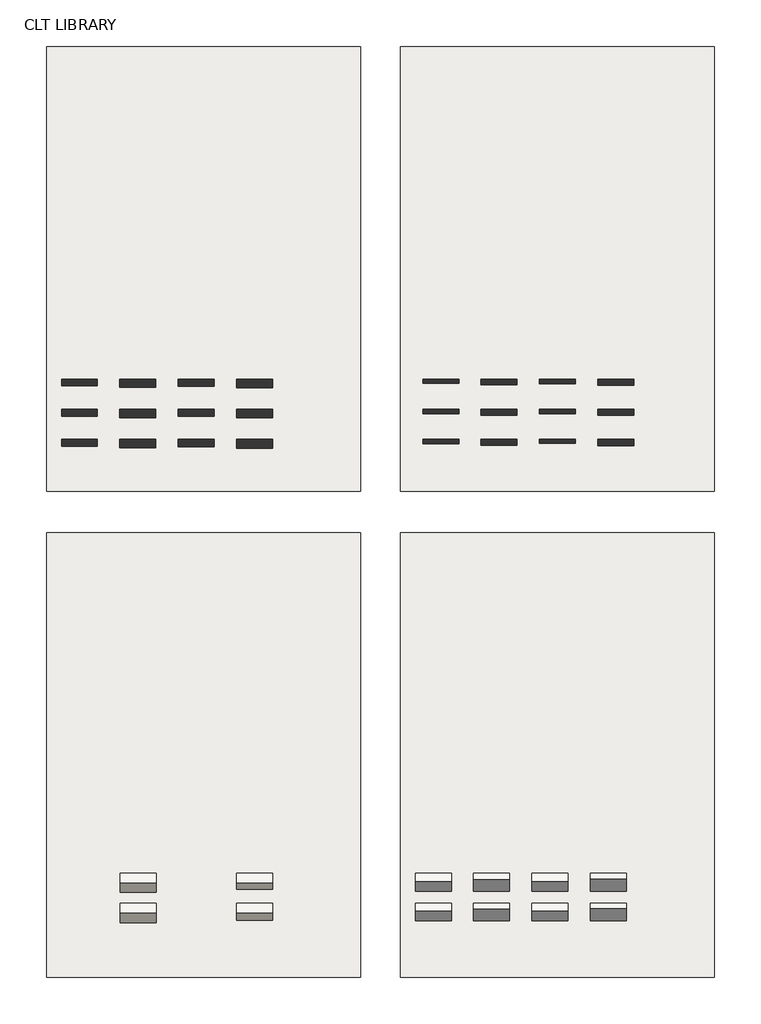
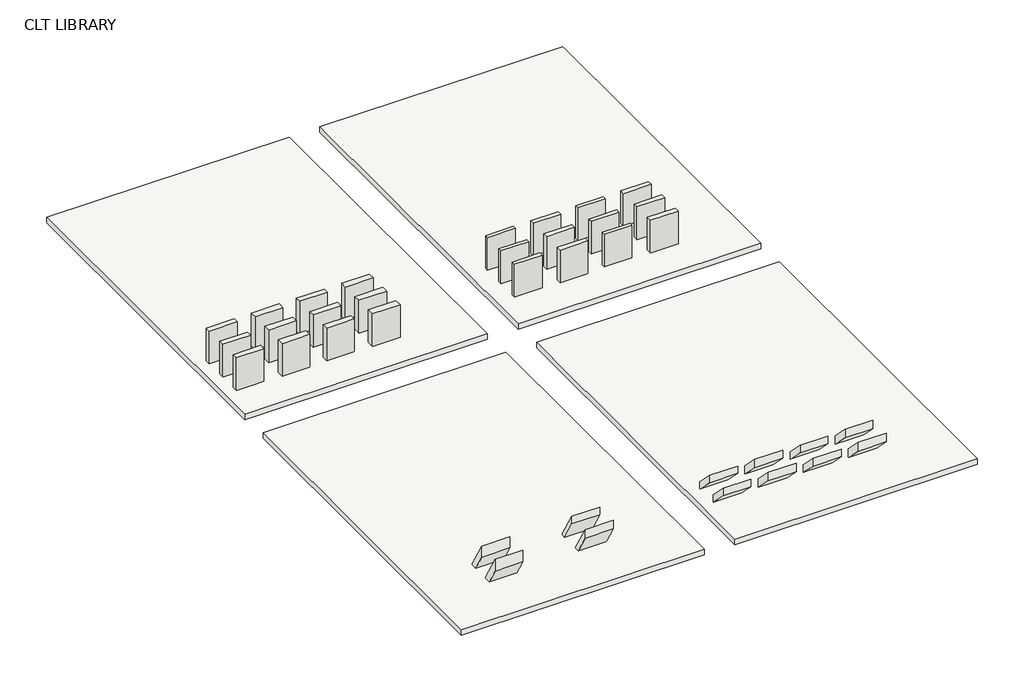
# One storey: 24 walls, 8 roofs, 8 slabs.
"""IFC4 building model written with IfcOpenShell, lengths in millimetres."""

from ifc_helpers import new_model, si_unit, frame, origin, origin_with_axes, place, context, project, spatial, polyline, outline, extrude, element, save

model = new_model("IFC4")

# Units and contexts
model_context = context("Model", 3, world=origin())
ifc_project = project(units=[si_unit("LENGTHUNIT", "METRE", prefix="MILLI")], contexts=[model_context])

# Site, building, storey
site = spatial("IfcSite", under=ifc_project)
building = spatial("IfcBuilding", under=site)
storey = spatial("IfcBuildingStorey", under=building, Name="CLT LIBRARY", Elevation=0.0)

# Roofs
placement = place(None, origin())
element("IfcRoof", 1, ObjectType="(CLT) R_TIL 160/551", at=placement, inside=storey, context=model_context, shape_type="SweptSolid", body=[
    extrude(outline(polyline([(5474.2905602, 2279.2316729), (6974.2905602, 779.2316729), (6974.2905602, 0.0), (5474.2905602, 1500.0), (5474.2905602, 2279.2316729)])), frame((36360.015, 0.0, 0.0), z_axis=(1.0, 0.0, 0.0), x_axis=(0.0, 1.0, 0.0)), (0.0, 0.0, 1.0), 2400.0),
])
element("IfcRoof", 2, ObjectType="(CLT) R_TIL 180/571", at=placement, inside=storey, context=model_context, shape_type="SweptSolid", body=[
    extrude(outline(polyline([(3474.2905602, 2307.5159441), (4974.2905602, 807.5159441), (4974.2905602, 0.0), (3474.2905602, 1500.0), (3474.2905602, 2307.5159441)])), frame((36360.015, 0.0, 0.0), z_axis=(1.0, 0.0, 0.0), x_axis=(0.0, 1.0, 0.0)), (0.0, 0.0, 1.0), 2400.0),
])
element("IfcRoof", 3, ObjectType="(CLT) R_MET 160/471", at=placement, inside=storey, context=model_context, shape_type="SweptSolid", body=[
    extrude(outline(polyline([(5474.2905602, 2166.0945879), (6974.2905602, 666.0945879), (6974.2905602, 0.0), (5474.2905602, 1500.0), (5474.2905602, 2166.0945879)])), frame((32460.015, 0.0, 0.0), z_axis=(1.0, 0.0, 0.0), x_axis=(0.0, 1.0, 0.0)), (0.0, 0.0, 1.0), 2400.0),
])
element("IfcRoof", 4, ObjectType="(CLT) R_MET 180/491", at=placement, inside=storey, context=model_context, shape_type="SweptSolid", body=[
    extrude(outline(polyline([(3474.2905602, 2194.3788591), (4974.2905602, 694.3788591), (4974.2905602, 0.0), (3474.2905602, 1500.0), (3474.2905602, 2194.3788591)])), frame((32460.015, 0.0, 0.0), z_axis=(1.0, 0.0, 0.0), x_axis=(0.0, 1.0, 0.0)), (0.0, 0.0, 1.0), 2400.0),
])
element("IfcRoof", 5, ObjectType="(CLT) R_TIL 140/531", at=placement, inside=storey, context=model_context, shape_type="SweptSolid", body=[
    extrude(outline(polyline([(5474.2905602, 2250.9474016), (6974.2905602, 750.9474016), (6974.2905602, 0.0), (5474.2905602, 1500.0), (5474.2905602, 2250.9474016)])), frame((28560.015, 0.0, 0.0), z_axis=(1.0, 0.0, 0.0), x_axis=(0.0, 1.0, 0.0)), (0.0, 0.0, 1.0), 2400.0),
])
element("IfcRoof", 6, ObjectType="(CLT) R_TIL 160/551", at=placement, inside=storey, context=model_context, shape_type="SweptSolid", body=[
    extrude(outline(polyline([(3474.2905602, 2279.2316729), (4974.2905602, 779.2316729), (4974.2905602, 0.0), (3474.2905602, 1500.0), (3474.2905602, 2279.2316729)])), frame((28560.015, 0.0, 0.0), z_axis=(1.0, 0.0, 0.0), x_axis=(0.0, 1.0, 0.0)), (0.0, 0.0, 1.0), 2400.0),
])
element("IfcRoof", 7, ObjectType="(CLT) R_MET 160/471", at=placement, inside=storey, context=model_context, shape_type="SweptSolid", body=[
    extrude(outline(polyline([(5474.2905602, 2166.0945879), (6974.2905602, 666.0945879), (6974.2905602, 0.0), (5474.2905602, 1500.0), (5474.2905602, 2166.0945879)])), frame((24660.015, 0.0, 0.0), z_axis=(1.0, 0.0, 0.0), x_axis=(0.0, 1.0, 0.0)), (0.0, 0.0, 1.0), 2400.0),
])
element("IfcRoof", 8, ObjectType="(CLT) R_MET 180/491", at=placement, inside=storey, context=model_context, shape_type="SweptSolid", body=[
    extrude(outline(polyline([(3474.2905602, 2194.3788591), (4974.2905602, 694.3788591), (4974.2905602, 0.0), (3474.2905602, 1500.0), (3474.2905602, 2194.3788591)])), frame((24660.015, 0.0, 0.0), z_axis=(1.0, 0.0, 0.0), x_axis=(0.0, 1.0, 0.0)), (0.0, 0.0, 1.0), 2400.0),
])

# Slabs
element("IfcSlab", 9, ObjectType="(CLT) FS_HSS 220/350", at=placement, inside=storey, context=model_context, shape_type="SweptSolid", body=[
    extrude(outline(polyline([(6974.2905602, -700.0), (5474.2905602, 1898.0762114), (5474.2905602, 2598.0762114), (6974.2905602, 0.0), (6974.2905602, -700.0)])), frame((12724.7371999, 0.0, 0.0), z_axis=(1.0, 0.0, 0.0), x_axis=(0.0, 1.0, 0.0)), (0.0, 0.0, 1.0), 2400.0),
])
element("IfcSlab", 10, ObjectType="(CLT) FS_HSS 260/390", at=placement, inside=storey, context=model_context, shape_type="SweptSolid", body=[
    extrude(outline(polyline([(4974.2905602, -780.0), (3474.2905602, 1818.0762114), (3474.2905602, 2598.0762114), (4974.2905602, 0.0), (4974.2905602, -780.0)])), frame((12724.7371999, 0.0, 0.0), z_axis=(1.0, 0.0, 0.0), x_axis=(0.0, 1.0, 0.0)), (0.0, 0.0, 1.0), 2400.0),
])
element("IfcSlab", 11, ObjectType="(CLT) FS_LSS 200/498", at=placement, inside=storey, context=model_context, shape_type="SweptSolid", body=[
    extrude(outline(polyline([(6974.2905602, -996.0), (5474.2905602, 1602.0762114), (5474.2905602, 2598.0762114), (6974.2905602, 0.0), (6974.2905602, -996.0)])), frame((4924.7371999, 0.0, 0.0), z_axis=(1.0, 0.0, 0.0), x_axis=(0.0, 1.0, 0.0)), (0.0, 0.0, 1.0), 2400.0),
])
element("IfcSlab", 12, ObjectType="(CLT) FS_LSS 240/498", at=placement, inside=storey, context=model_context, shape_type="SweptSolid", body=[
    extrude(outline(polyline([(4974.2905602, -1076.0), (3474.2905602, 1522.0762114), (3474.2905602, 2598.0762114), (4974.2905602, 0.0), (4974.2905602, -1076.0)])), frame((4924.7371999, 0.0, 0.0), z_axis=(1.0, 0.0, 0.0), x_axis=(0.0, 1.0, 0.0)), (0.0, 0.0, 1.0), 2400.0),
])
element("IfcSlab", 13, ObjectType="(CLT) FS_LSS 200/498", at=placement, inside=storey, context=model_context, shape_type="SweptSolid", body=[
    extrude(outline(polyline([(21000.0144444, 62200.0166667), (21000.0144444, 32500.0083333), (0.0, 32500.0083333), (0.0, 62200.0166667), (21000.0144444, 62200.0166667)])), frame((0.0, 0.0, -498.0), z_axis=(0.0, 0.0, 1.0), x_axis=(1.0, 0.0, 0.0)), (0.0, 0.0, 1.0), 498.0),
])
element("IfcSlab", 14, ObjectType="(CLT) FS_LSS 200/498", at=placement, inside=storey, context=model_context, shape_type="SweptSolid", body=[
    extrude(outline(polyline([(44655.2922445, 62200.0166667), (44655.2922445, 32500.0083333), (23655.2778001, 32500.0083333), (23655.2778001, 62200.0166667), (44655.2922445, 62200.0166667)])), frame((0.0, 0.0, -498.0), z_axis=(0.0, 0.0, 1.0), x_axis=(1.0, 0.0, 0.0)), (0.0, 0.0, 1.0), 498.0),
])
element("IfcSlab", 15, ObjectType="(CLT) FS_LSS 200/498", at=placement, inside=storey, context=model_context, shape_type="SweptSolid", body=[
    extrude(outline(polyline([(44655.2922445, 29700.0083333), (44655.2922445, 0.0), (23655.2778001, 0.0), (23655.2778001, 29700.0083333), (44655.2922445, 29700.0083333)])), frame((0.0, 0.0, -498.0), z_axis=(0.0, 0.0, 1.0), x_axis=(1.0, 0.0, 0.0)), (0.0, 0.0, 1.0), 498.0),
])
element("IfcSlab", 16, ObjectType="(CLT) FS_LSS 200/498", at=placement, inside=storey, context=model_context, shape_type="SweptSolid", body=[
    extrude(outline(polyline([(21000.0144444, 29700.0083333), (21000.0144444, 0.0), (0.0, 0.0), (0.0, 29700.0083333), (21000.0144444, 29700.0083333)])), frame((0.0, 0.0, -498.0), z_axis=(0.0, 0.0, 1.0), x_axis=(1.0, 0.0, 0.0)), (0.0, 0.0, 1.0), 498.0),
])

# Walls
element("IfcWall", 17, ObjectType="(CLT) XW_BRI 160/566", at=placement, inside=storey, context=model_context, shape_type="SweptSolid", body=[
    extrude(outline(polyline([(15100.015, 39408.2905602), (12700.015, 39408.2905602), (12700.015, 39974.2905602), (15100.015, 39974.2905602), (15100.015, 39408.2905602)])), origin_with_axes(), (0.0, 0.0, 1.0), 3000.0),
])
element("IfcWall", 18, ObjectType="(CLT) XW_BRI 180/586", at=placement, inside=storey, context=model_context, shape_type="SweptSolid", body=[
    extrude(outline(polyline([(15100.015, 37388.2905602), (12700.015, 37388.2905602), (12700.015, 37974.2905602), (15100.015, 37974.2905602), (15100.015, 37388.2905602)])), origin_with_axes(), (0.0, 0.0, 1.0), 3000.0),
])
element("IfcWall", 19, ObjectType="(CLT) XW_BRI 200/606", at=placement, inside=storey, context=model_context, shape_type="SweptSolid", body=[
    extrude(outline(polyline([(15100.015, 35368.2905602), (12700.015, 35368.2905602), (12700.015, 35974.2905602), (15100.015, 35974.2905602), (15100.015, 35368.2905602)])), origin_with_axes(), (0.0, 0.0, 1.0), 3000.0),
])
element("IfcWall", 20, ObjectType="(CLT) XW_PAN 160/462", at=placement, inside=storey, context=model_context, shape_type="SweptSolid", body=[
    extrude(outline(polyline([(11200.015, 39512.2905602), (8800.015, 39512.2905602), (8800.015, 39974.2905602), (11200.015, 39974.2905602), (11200.015, 39512.2905602)])), origin_with_axes(), (0.0, 0.0, 1.0), 3000.0),
])
element("IfcWall", 21, ObjectType="(CLT) XW_PAN 180/482", at=placement, inside=storey, context=model_context, shape_type="SweptSolid", body=[
    extrude(outline(polyline([(11200.015, 37492.2905602), (8800.015, 37492.2905602), (8800.015, 37974.2905602), (11200.015, 37974.2905602), (11200.015, 37492.2905602)])), origin_with_axes(), (0.0, 0.0, 1.0), 3000.0),
])
element("IfcWall", 22, ObjectType="(CLT) XW_PAN 200/502", at=placement, inside=storey, context=model_context, shape_type="SweptSolid", body=[
    extrude(outline(polyline([(11200.015, 35472.2905602), (8800.015, 35472.2905602), (8800.015, 35974.2905602), (11200.015, 35974.2905602), (11200.015, 35472.2905602)])), origin_with_axes(), (0.0, 0.0, 1.0), 3000.0),
])
element("IfcWall", 23, ObjectType="(CLT) XW_BRI 140/546", at=placement, inside=storey, context=model_context, shape_type="SweptSolid", body=[
    extrude(outline(polyline([(7300.015, 39428.2905602), (4900.015, 39428.2905602), (4900.015, 39974.2905602), (7300.015, 39974.2905602), (7300.015, 39428.2905602)])), origin_with_axes(), (0.0, 0.0, 1.0), 3000.0),
])
element("IfcWall", 24, ObjectType="(CLT) XW_BRI 160/566", at=placement, inside=storey, context=model_context, shape_type="SweptSolid", body=[
    extrude(outline(polyline([(7300.015, 37408.2905602), (4900.015, 37408.2905602), (4900.015, 37974.2905602), (7300.015, 37974.2905602), (7300.015, 37408.2905602)])), origin_with_axes(), (0.0, 0.0, 1.0), 3000.0),
])
element("IfcWall", 25, ObjectType="(CLT) XW_BRI 180/586", at=placement, inside=storey, context=model_context, shape_type="SweptSolid", body=[
    extrude(outline(polyline([(7300.015, 35388.2905602), (4900.015, 35388.2905602), (4900.015, 35974.2905602), (7300.015, 35974.2905602), (7300.015, 35388.2905602)])), origin_with_axes(), (0.0, 0.0, 1.0), 3000.0),
])
element("IfcWall", 26, ObjectType="(CLT) XW_PAN 140/442", at=placement, inside=storey, context=model_context, shape_type="SweptSolid", body=[
    extrude(outline(polyline([(3400.015, 39532.2905602), (1000.015, 39532.2905602), (1000.015, 39974.2905602), (3400.015, 39974.2905602), (3400.015, 39532.2905602)])), origin_with_axes(), (0.0, 0.0, 1.0), 3000.0),
])
element("IfcWall", 27, ObjectType="(CLT) XW_PAN 160/462", at=placement, inside=storey, context=model_context, shape_type="SweptSolid", body=[
    extrude(outline(polyline([(3400.015, 37512.2905602), (1000.015, 37512.2905602), (1000.015, 37974.2905602), (3400.015, 37974.2905602), (3400.015, 37512.2905602)])), origin_with_axes(), (0.0, 0.0, 1.0), 3000.0),
])
element("IfcWall", 28, ObjectType="(CLT) XW_PAN 180/482", at=placement, inside=storey, context=model_context, shape_type="SweptSolid", body=[
    extrude(outline(polyline([(3400.015, 35492.2905602), (1000.015, 35492.2905602), (1000.015, 35974.2905602), (3400.015, 35974.2905602), (3400.015, 35492.2905602)])), origin_with_axes(), (0.0, 0.0, 1.0), 3000.0),
])
element("IfcWall", 29, ObjectType="(CLT) PW 100+100/426", at=placement, inside=storey, context=model_context, shape_type="SweptSolid", body=[
    extrude(outline(polyline([(39260.015, 37548.2905602), (36860.015, 37548.2905602), (36860.015, 37974.2905602), (39260.015, 37974.2905602), (39260.015, 37548.2905602)])), origin_with_axes(), (0.0, 0.0, 1.0), 3000.0),
])
element("IfcWall", 30, ObjectType="(CLT) PW 110+110/446", at=placement, inside=storey, context=model_context, shape_type="SweptSolid", body=[
    extrude(outline(polyline([(39260.015, 35528.2905602), (36860.015, 35528.2905602), (36860.015, 35974.2905602), (39260.015, 35974.2905602), (39260.015, 35528.2905602)])), origin_with_axes(), (0.0, 0.0, 1.0), 3000.0),
])
element("IfcWall", 31, ObjectType="(CLT) PW 140/306", at=placement, inside=storey, context=model_context, shape_type="SweptSolid", body=[
    extrude(outline(polyline([(35360.015, 39668.2905602), (32960.015, 39668.2905602), (32960.015, 39974.2905602), (35360.015, 39974.2905602), (35360.015, 39668.2905602)])), origin_with_axes(), (0.0, 0.0, 1.0), 3000.0),
])
element("IfcWall", 32, ObjectType="(CLT) PW 160/326", at=placement, inside=storey, context=model_context, shape_type="SweptSolid", body=[
    extrude(outline(polyline([(35360.015, 37648.2905602), (32960.015, 37648.2905602), (32960.015, 37974.2905602), (35360.015, 37974.2905602), (35360.015, 37648.2905602)])), origin_with_axes(), (0.0, 0.0, 1.0), 3000.0),
])
element("IfcWall", 33, ObjectType="(CLT) PW 180/346", at=placement, inside=storey, context=model_context, shape_type="SweptSolid", body=[
    extrude(outline(polyline([(35360.015, 35688.2905602), (32960.015, 35688.2905602), (32960.015, 35974.2905602), (35360.015, 35974.2905602), (35360.015, 35688.2905602)])), origin_with_axes(), (0.0, 0.0, 1.0), 3000.0),
])
element("IfcWall", 34, ObjectType="(CLT) PW 100+100/426", at=placement, inside=storey, context=model_context, shape_type="SweptSolid", body=[
    extrude(outline(polyline([(31460.015, 35548.2905602), (29060.015, 35548.2905602), (29060.015, 35974.2905602), (31460.015, 35974.2905602), (31460.015, 35548.2905602)])), origin_with_axes(), (0.0, 0.0, 1.0), 3000.0),
])
element("IfcWall", 35, ObjectType="(CLT) PW 120/286", at=placement, inside=storey, context=model_context, shape_type="SweptSolid", body=[
    extrude(outline(polyline([(27560.015, 39688.2905602), (25160.015, 39688.2905602), (25160.015, 39974.2905602), (27560.015, 39974.2905602), (27560.015, 39688.2905602)])), origin_with_axes(), (0.0, 0.0, 1.0), 3000.0),
])
element("IfcWall", 36, ObjectType="(CLT) PW 140/306", at=placement, inside=storey, context=model_context, shape_type="SweptSolid", body=[
    extrude(outline(polyline([(27560.015, 37668.2905602), (25160.015, 37668.2905602), (25160.015, 37974.2905602), (27560.015, 37974.2905602), (27560.015, 37668.2905602)])), origin_with_axes(), (0.0, 0.0, 1.0), 3000.0),
])
element("IfcWall", 37, ObjectType="(CLT) PW 160/326", at=placement, inside=storey, context=model_context, shape_type="SweptSolid", body=[
    extrude(outline(polyline([(27560.015, 35648.2905602), (25160.015, 35648.2905602), (25160.015, 35974.2905602), (27560.015, 35974.2905602), (27560.015, 35648.2905602)])), origin_with_axes(), (0.0, 0.0, 1.0), 3000.0),
])
element("IfcWall", 38, ObjectType="(CLT) PW 80+80/386", at=placement, inside=storey, context=model_context, shape_type="SweptSolid", body=[
    extrude(outline(polyline([(31460.015, 39588.2905602), (29060.015, 39588.2905602), (29060.015, 39974.2905602), (31460.015, 39974.2905602), (31460.015, 39588.2905602)])), origin_with_axes(), (0.0, 0.0, 1.0), 3000.0),
])
element("IfcWall", 39, ObjectType="(CLT) PW 90+90/406", at=placement, inside=storey, context=model_context, shape_type="SweptSolid", body=[
    extrude(outline(polyline([(39260.015, 39568.2905602), (36860.015, 39568.2905602), (36860.015, 39974.2905602), (39260.015, 39974.2905602), (39260.015, 39568.2905602)])), origin_with_axes(), (0.0, 0.0, 1.0), 3000.0),
])
element("IfcWall", 40, ObjectType="(CLT) PW 90+90/406", at=placement, inside=storey, context=model_context, shape_type="SweptSolid", body=[
    extrude(outline(polyline([(31460.015, 37568.2905602), (29060.015, 37568.2905602), (29060.015, 37974.2905602), (31460.015, 37974.2905602), (31460.015, 37568.2905602)])), origin_with_axes(), (0.0, 0.0, 1.0), 3000.0),
])

save(model, "model.ifc")
